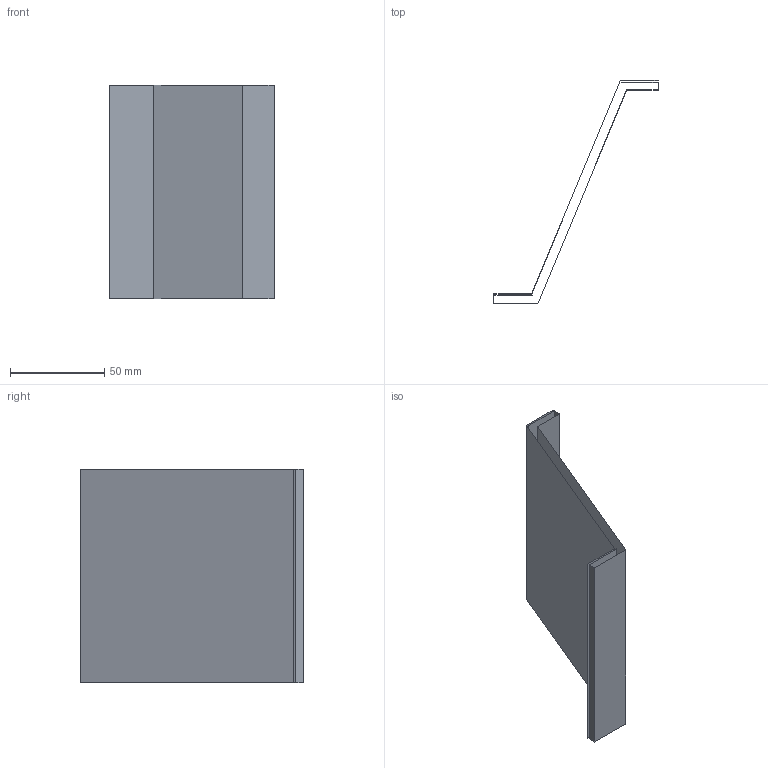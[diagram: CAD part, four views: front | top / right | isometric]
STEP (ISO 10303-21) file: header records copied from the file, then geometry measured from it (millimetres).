
FILE_DESCRIPTION(('CATIA V5 STEP Exchange'),'2;1');
FILE_NAME('C:\_Andres\UNIVERSIDAD\IQS\ASIGNATURAS\DAO\EXF\EXF-16172c\2inicio\Gumá_Abizanda_Ej06_v13.stp','2017-03-05T21:01:24+00:00',('none'),('none'),'CATIA Version 5-6 Release 2014 SP1 HF18','CATIA V5 STEP AP203','none');
FILE_SCHEMA(('CONFIG_CONTROL_DESIGN'));
Length unit declared in the file: millimetre
Products named in the file (1): Gumá_Abizanda_Ej06_v13
Bounding box: 87 x 118 x 113 mm (x, y, z)
Surface area: 42122.9 mm2 (no closed solid volume)
Topology: 0 solids, 2 shells, 10 faces, 42 edges, 36 vertices
Faces by surface type: plane 10
Entity records: 461 total; most frequent: CARTESIAN_POINT 100, DIRECTION 59, ORIENTED_EDGE 40, VECTOR 39, LINE 39, EDGE_CURVE 32, VERTEX_POINT 24, AXIS2_PLACEMENT_3D 11
